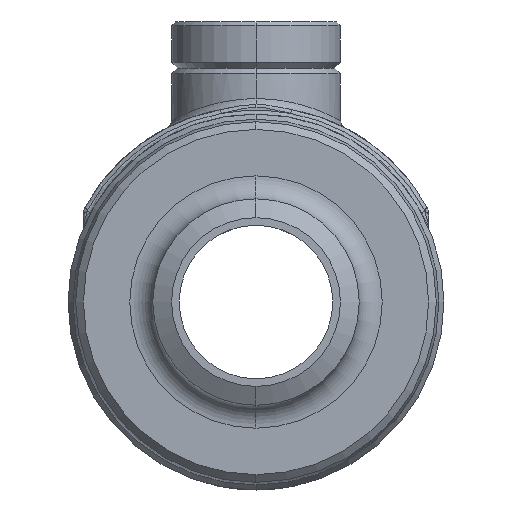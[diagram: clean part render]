
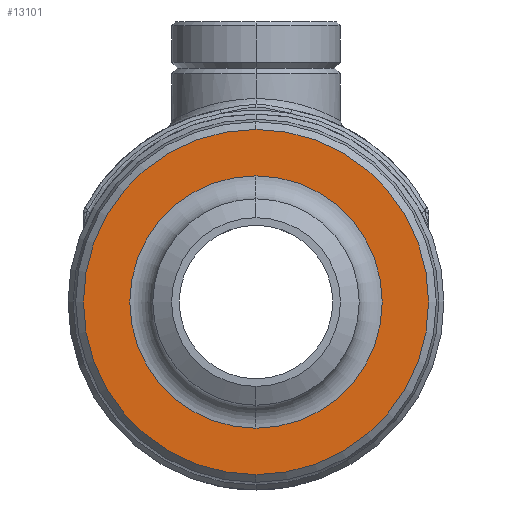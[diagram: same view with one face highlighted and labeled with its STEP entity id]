
A CAD part, left-side view. The second image highlights one B-rep face of the part: STEP entity #13101.
In plain terms, the highlighted planar face has unit normal (-1, 0, 0).
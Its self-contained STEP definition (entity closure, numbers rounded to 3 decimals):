
#3474=CARTESIAN_POINT('',(-52.,0.,0.));
#3475=DIRECTION('',(1.,0.,0.));
#3476=DIRECTION('',(0.,0.,1.));
#3477=AXIS2_PLACEMENT_3D('',#3474,#3475,#3476);
#3489=CARTESIAN_POINT('',(-52.,0.,0.));
#3490=DIRECTION('',(-1.,0.,0.));
#3491=DIRECTION('',(0.,0.,1.));
#3492=AXIS2_PLACEMENT_3D('',#3489,#3490,#3491);
#3494=CARTESIAN_POINT('',(-52.,0.,0.));
#3495=DIRECTION('',(1.,0.,0.));
#3496=DIRECTION('',(0.,0.,-1.));
#3497=AXIS2_PLACEMENT_3D('',#3494,#3495,#3496);
#3499=CARTESIAN_POINT('',(-52.,0.,0.));
#3500=DIRECTION('',(1.,0.,0.));
#3501=DIRECTION('',(0.,0.,1.));
#3502=AXIS2_PLACEMENT_3D('',#3499,#3500,#3501);
#5992=CARTESIAN_POINT('',(-52.,0.,16.45));
#5993=VERTEX_POINT('',#5992);
#5994=CARTESIAN_POINT('',(-52.,0.,-16.45));
#5995=VERTEX_POINT('',#5994);
#6000=CARTESIAN_POINT('',(-52.,0.,-22.5));
#6001=CARTESIAN_POINT('',(-52.,0.,22.5));
#6002=VERTEX_POINT('',#6000);
#6003=VERTEX_POINT('',#6001);
#13086=CARTESIAN_POINT('',(-52.,0.,0.));
#13087=DIRECTION('',(1.,0.,0.));
#13088=DIRECTION('',(0.,0.,1.));
#13089=AXIS2_PLACEMENT_3D('',#13086,#13087,#13088);
#13090=PLANE('',#13089);
#13092=ORIENTED_EDGE('',*,*,#13091,.T.);
#13094=ORIENTED_EDGE('',*,*,#13093,.T.);
#13095=EDGE_LOOP('',(#13092,#13094));
#13096=FACE_OUTER_BOUND('',#13095,.F.);
#13097=ORIENTED_EDGE('',*,*,#13081,.T.);
#13098=ORIENTED_EDGE('',*,*,#13065,.F.);
#13099=EDGE_LOOP('',(#13097,#13098));
#13100=FACE_BOUND('',#13099,.F.);
#13101=ADVANCED_FACE('',(#13096,#13100),#13090,.F.);
#3478=CIRCLE('',#3477,16.45);
#3493=CIRCLE('',#3492,16.45);
#3498=CIRCLE('',#3497,22.5);
#3503=CIRCLE('',#3502,22.5);
#13065=EDGE_CURVE('',#5993,#5995,#3478,.T.);
#13081=EDGE_CURVE('',#5993,#5995,#3493,.T.);
#13091=EDGE_CURVE('',#6002,#6003,#3498,.T.);
#13093=EDGE_CURVE('',#6003,#6002,#3503,.T.);
